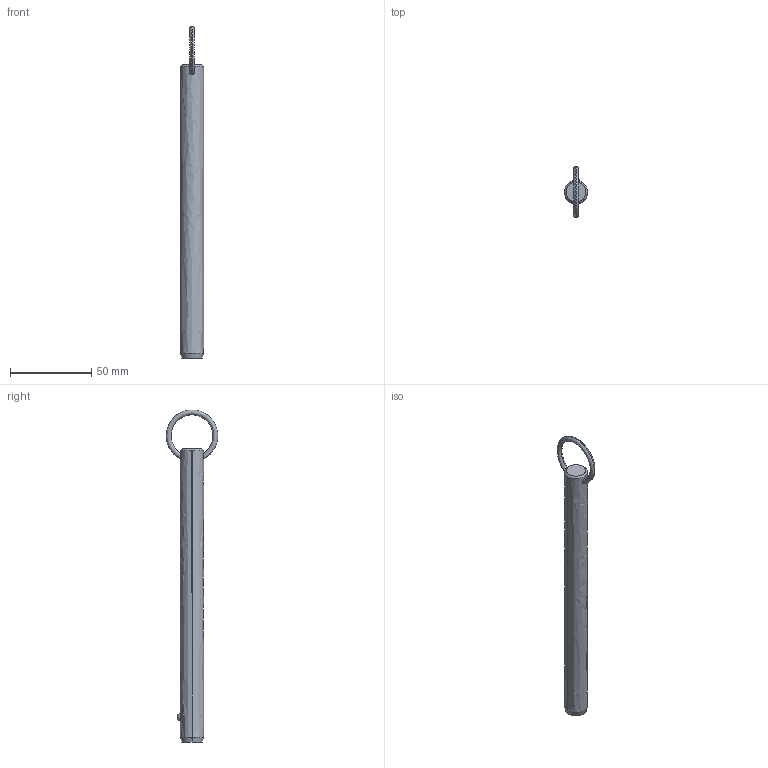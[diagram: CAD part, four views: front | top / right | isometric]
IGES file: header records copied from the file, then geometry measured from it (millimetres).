
Start section: SolidWorks IGES file using analytic representation for surfaces
Global section: file name: C:\Users\liam_\OneDrive\Documents\WORK\Work for WixRoyd\Job Files\J-00019 - Matt Davis CAD Checking\04. CAD Drawings\automotion20190605\P1250.2_v2\P1250.2_v2_20190729_IGES\P1250.056-610.igs; native system: SolidWorks 2017; preprocessor: SolidWorks 2017; author: liam_; date: 190729.232715; units: millimetre
Bounding box: 14.2 x 31.7 x 203.99 mm (x, y, z)
Surface area: 9004.7 mm2 (no closed solid volume)
Topology: 0 solids, 0 shells, 12 faces, 285 edges, 283 vertices
Faces by surface type: revolution 8, bspline 4
